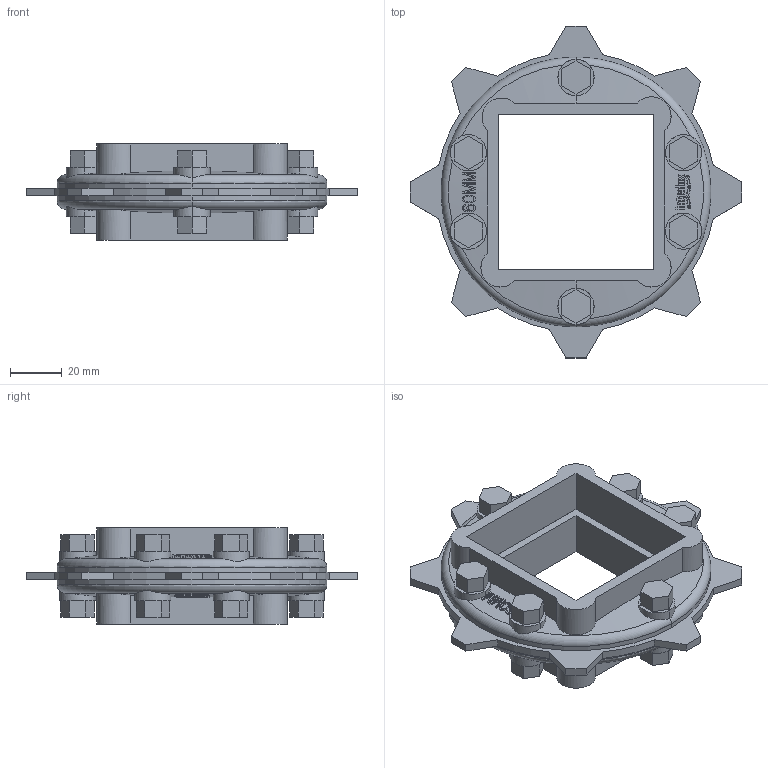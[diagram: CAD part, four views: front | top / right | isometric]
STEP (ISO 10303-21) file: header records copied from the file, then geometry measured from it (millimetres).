
FILE_DESCRIPTION((''),'2;1');
FILE_NAME('S400_SPL_METAL_52X60_SQ_ASM','2008-12-12T',('jmumphre'),(''),'PRO/ENGINEER BY PARAMETRIC TECHNOLOGY CORPORATION, 2008150','PRO/ENGINEER BY PARAMETRIC TECHNOLOGY CORPORATION, 2008150','');
FILE_SCHEMA(('CONFIG_CONTROL_DESIGN'));
Length unit declared in the file: inch
Products named in the file (5): S400_TP_METAL_52X26_SQ_AF2; JOINING_PLATE_5X60_SQ_AF0; JOINING_PLATE_5X60_SQ_AF1; BOLTS_N_NUTS_3-480X0-750_AF1; S400_SPL_METAL_52X60_SQ_ASM
Assembly tree (4 placements, depth 2):
  S400_SPL_METAL_52X60_SQ_ASM
    S400_TP_METAL_52X26_SQ_AF2
    JOINING_PLATE_5X60_SQ_AF0
    JOINING_PLATE_5X60_SQ_AF1
    BOLTS_N_NUTS_3-480X0-750_AF1
Bounding box: 128.18 x 128.18 x 37.08 mm (x, y, z)
Volume: 112160.8 mm3; surface area: 60685.4 mm2
Topology: 9 solids, 9 shells, 968 faces, 2670 edges, 1776 vertices
Faces by surface type: plane 648, cylinder 268, cone 48, torus 4
Entity records: 34037 total; most frequent: CARTESIAN_POINT 11741, ORIENTED_EDGE 5340, DIRECTION 3392, EDGE_CURVE 2670, VERTEX_POINT 1776, B_SPLINE_CURVE_WITH_KNOTS 1400, AXIS2_PLACEMENT_3D 1145, VECTOR 1102
